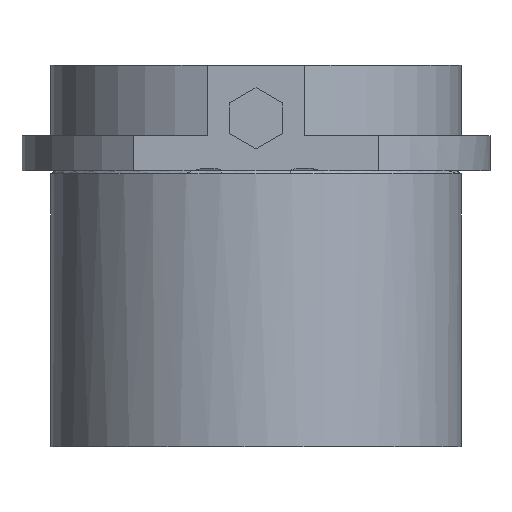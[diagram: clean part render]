
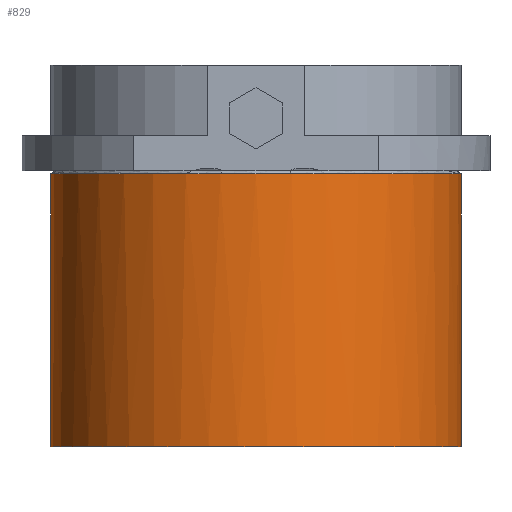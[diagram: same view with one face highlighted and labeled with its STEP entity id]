
A CAD part, front view. The second image highlights one B-rep face of the part: STEP entity #829.
In plain terms, the highlighted cylindrical face has radius 35 mm (diameter 70 mm), a partial arc.
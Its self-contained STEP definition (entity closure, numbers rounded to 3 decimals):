
#458=CARTESIAN_POINT('Control Point',(-35.,0.,-47.)) ;
#459=CARTESIAN_POINT('Control Point',(-35.,-3.188,-47.)) ;
#460=CARTESIAN_POINT('Control Point',(-34.637,-6.376,-47.)) ;
#461=CARTESIAN_POINT('Control Point',(-33.911,-9.509,-47.)) ;
#462=CARTESIAN_POINT('Control Point',(-31.758,-15.555,-47.)) ;
#463=CARTESIAN_POINT('Control Point',(-28.302,-20.962,-47.)) ;
#464=CARTESIAN_POINT('Control Point',(-26.272,-23.456,-47.)) ;
#465=CARTESIAN_POINT('Control Point',(-21.679,-27.938,-47.)) ;
#466=CARTESIAN_POINT('Control Point',(-16.197,-31.274,-47.)) ;
#467=CARTESIAN_POINT('Control Point',(-13.276,-32.621,-47.)) ;
#468=CARTESIAN_POINT('Control Point',(-7.18,-34.626,-47.)) ;
#469=CARTESIAN_POINT('Control Point',(-0.79,-35.21,-47.)) ;
#470=CARTESIAN_POINT('Control Point',(2.426,-35.135,-47.)) ;
#471=CARTESIAN_POINT('Control Point',(8.782,-34.255,-47.)) ;
#472=CARTESIAN_POINT('Control Point',(14.778,-31.968,-47.)) ;
#473=CARTESIAN_POINT('Control Point',(17.633,-30.487,-47.)) ;
#474=CARTESIAN_POINT('Control Point',(22.955,-26.9,-47.)) ;
#475=CARTESIAN_POINT('Control Point',(27.334,-22.209,-47.)) ;
#476=CARTESIAN_POINT('Control Point',(29.246,-19.623,-47.)) ;
#477=CARTESIAN_POINT('Control Point',(32.284,-14.345,-47.)) ;
#478=CARTESIAN_POINT('Control Point',(34.122,-8.548,-47.)) ;
#479=CARTESIAN_POINT('Control Point',(34.707,-5.725,-47.)) ;
#480=CARTESIAN_POINT('Control Point',(35.,-2.863,-47.)) ;
#481=CARTESIAN_POINT('Control Point',(35.,0.,-47.)) ;
#482=CARTESIAN_POINT('Vertex',(-35.,0.,-47.)) ;
#484=CARTESIAN_POINT('Vertex',(35.,0.,-47.)) ;
#799=CARTESIAN_POINT('Axis2P3D Location',(0.,0.,18.)) ;
#804=CARTESIAN_POINT('Line Origine',(35.,0.,18.)) ;
#808=CARTESIAN_POINT('Vertex',(35.,0.,-0.5)) ;
#811=CARTESIAN_POINT('Axis2P3D Location',(0.,0.,-0.5)) ;
#815=CARTESIAN_POINT('Vertex',(-35.,0.,-0.5)) ;
#818=CARTESIAN_POINT('Line Origine',(-35.,0.,18.)) ;
#800=DIRECTION('Axis2P3D Direction',(0.,0.,-1.)) ;
#801=DIRECTION('Axis2P3D XDirection',(1.,0.,0.)) ;
#805=DIRECTION('Vector Direction',(0.,0.,-1.)) ;
#812=DIRECTION('Axis2P3D Direction',(0.,0.,-1.)) ;
#819=DIRECTION('Vector Direction',(0.,0.,-1.)) ;
#802=AXIS2_PLACEMENT_3D('Cylinder Axis2P3D',#799,#800,#801) ;
#813=AXIS2_PLACEMENT_3D('Circle Axis2P3D',#811,#812,$) ;
#824=ORIENTED_EDGE('',*,*,#810,.T.) ;
#825=ORIENTED_EDGE('',*,*,#817,.F.) ;
#826=ORIENTED_EDGE('',*,*,#822,.T.) ;
#827=ORIENTED_EDGE('',*,*,#486,.T.) ;
#806=VECTOR('Line Direction',#805,1.) ;
#820=VECTOR('Line Direction',#819,1.) ;
#829=ADVANCED_FACE('740-50',(#828),#803,.T.) ;
#457=B_SPLINE_CURVE_WITH_KNOTS('',5,(#458,#459,#460,#461,#462,#463,#464,#465,#466,#467,#468,#469,#470,#471,#472,#473,#474,#475,#476,#477,#478,#479,#480,#481),.UNSPECIFIED.,.F.,.U.,(6,3,3,3,3,3,3,6),(0.,22.543,45.086,67.629,90.172,112.716,135.259,155.5),.UNSPECIFIED.) ;
#814=CIRCLE('generated circle',#813,35.) ;
#803=CYLINDRICAL_SURFACE('generated cylinder',#802,35.) ;
#486=EDGE_CURVE('',#483,#485,#457,.T.) ;
#810=EDGE_CURVE('',#485,#809,#807,.F.) ;
#817=EDGE_CURVE('',#816,#809,#814,.F.) ;
#822=EDGE_CURVE('',#816,#483,#821,.T.) ;
#823=EDGE_LOOP('',(#824,#825,#826,#827)) ;
#828=FACE_OUTER_BOUND('',#823,.T.) ;
#807=LINE('Line',#804,#806) ;
#821=LINE('Line',#818,#820) ;
#483=VERTEX_POINT('',#482) ;
#485=VERTEX_POINT('',#484) ;
#809=VERTEX_POINT('',#808) ;
#816=VERTEX_POINT('',#815) ;
